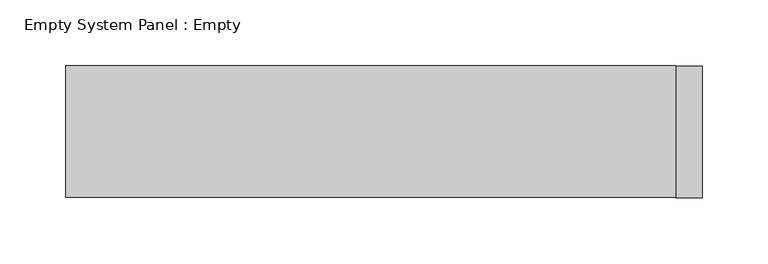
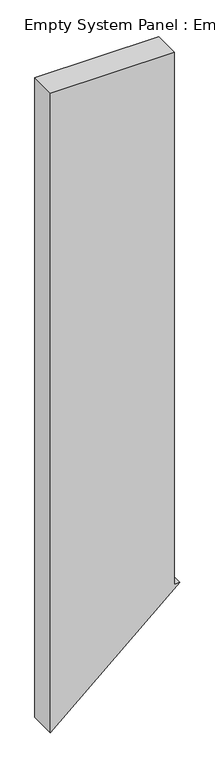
"""IFC4 building model written with IfcOpenShell, lengths in millimetres: plate geometry, Empty System Panel : Empty."""

from ifc_helpers import new_model, si_unit, frame, origin, place, context, project, spatial, polyline, outline, extrude, source, transform, mapped, element, save


def empty_system_panel_empty_e282042e(model_context):
    return source(origin(), model_context, "Body", "SweptSolid", [
        extrude(outline(polyline([(0.0, -241.7391304), (424.4092097, 241.7391304), (424.4092097, 221.7391304), (2530.2461413, 221.7391304), (2530.2461413, -241.7391304), (0.0, -241.7391304)])), frame((0.0, -50.0, 0.0), z_axis=(0.0, 1.0, 0.0), x_axis=(0.0, 0.0, 1.0)), (0.0, 0.0, 1.0), 100.0),
    ])


if __name__ == "__main__":
    model = new_model("IFC4")
    model_context = context("Model", 3, world=origin())
    ifc_project = project(units=[si_unit("LENGTHUNIT", "METRE", prefix="MILLI")], contexts=[model_context])
    site = spatial("IfcSite", under=ifc_project)
    building = spatial("IfcBuilding", under=site)
    placement = place(None, origin())
    empty_system_panel_empty_shape = empty_system_panel_empty_e282042e(model_context)
    element("IfcPlate", 1, ObjectType="Empty System Panel : Empty", at=placement, inside=building, context=model_context, shape_type="MappedRepresentation", body=[
        mapped(empty_system_panel_empty_shape, transform((0.0, 0.0, 0.0), x_axis=(1.0, 0.0, 0.0), y_axis=(0.0, 1.0, 0.0), z_axis=(0.0, 0.0, 1.0))),
    ])
    save(model, "model.ifc")
